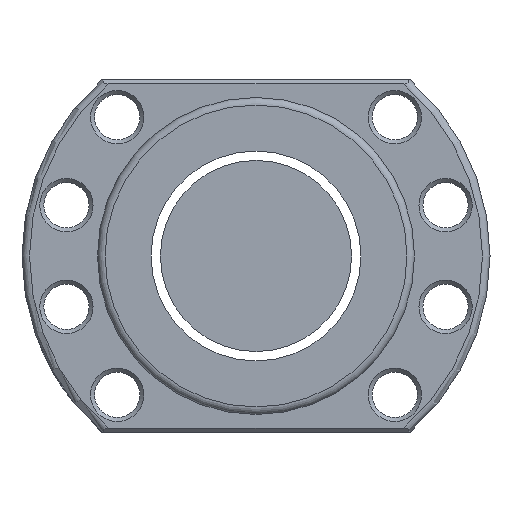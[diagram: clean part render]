
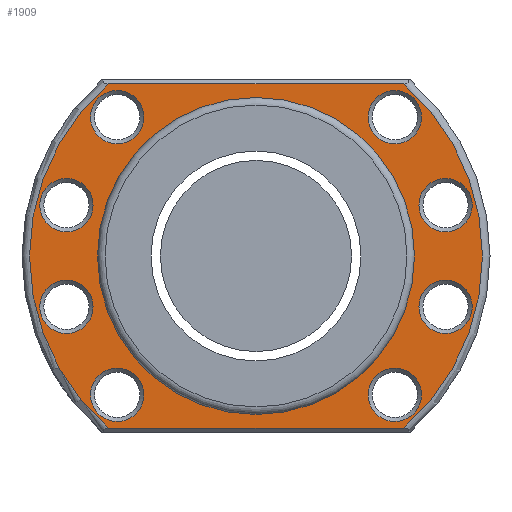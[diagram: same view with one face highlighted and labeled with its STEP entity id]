
A CAD part, left-side view. The second image highlights one B-rep face of the part: STEP entity #1909.
In plain terms, the highlighted planar face has unit normal (-1, 0, 0).
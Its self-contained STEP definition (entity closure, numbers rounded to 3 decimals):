
#19 = CIRCLE ( 'NONE', #585, 45. ) ;
#27 = DIRECTION ( 'NONE',  ( 1., 0., 0. ) ) ;
#34 = CIRCLE ( 'NONE', #1695, 31.5 ) ;
#40 = CIRCLE ( 'NONE', #1451, 5.3 ) ;
#46 = FACE_BOUND ( 'NONE', #2965, .T. ) ;
#75 = DIRECTION ( 'NONE',  ( -1., 0., 0. ) ) ;
#91 = AXIS2_PLACEMENT_3D ( 'NONE', #611, #2176, #2206 ) ;
#111 = DIRECTION ( 'NONE',  ( 0., -1., 0. ) ) ;
#244 = CARTESIAN_POINT ( 'NONE',  ( -127., -37.671, 15.394 ) ) ;
#264 = CARTESIAN_POINT ( 'NONE',  ( -127., 27.577, -22.277 ) ) ;
#274 = LINE ( 'NONE', #876, #2053 ) ;
#311 = FACE_BOUND ( 'NONE', #1979, .T. ) ;
#314 = ORIENTED_EDGE ( 'NONE', *, *, #2988, .T. ) ;
#325 = FACE_BOUND ( 'NONE', #806, .T. ) ;
#341 = FACE_OUTER_BOUND ( 'NONE', #2772, .T. ) ;
#355 = DIRECTION ( 'NONE',  ( -1., 0., 0. ) ) ;
#356 = FACE_BOUND ( 'NONE', #2677, .T. ) ;
#374 = CIRCLE ( 'NONE', #2875, 5.3 ) ;
#375 = AXIS2_PLACEMENT_3D ( 'NONE', #1952, #2229, #2216 ) ;
#380 = ORIENTED_EDGE ( 'NONE', *, *, #1906, .T. ) ;
#382 = CARTESIAN_POINT ( 'NONE',  ( -127., -27.577, -22.277 ) ) ;
#387 = CARTESIAN_POINT ( 'NONE',  ( -127., 0., 0. ) ) ;
#403 = DIRECTION ( 'NONE',  ( -1., 0., 0. ) ) ;
#415 = EDGE_LOOP ( 'NONE', ( #1395 ) ) ;
#434 = ORIENTED_EDGE ( 'NONE', *, *, #669, .T. ) ;
#460 = CARTESIAN_POINT ( 'NONE',  ( -127., 27.577, 32.877 ) ) ;
#487 = CIRCLE ( 'NONE', #2153, 45. ) ;
#506 = CARTESIAN_POINT ( 'NONE',  ( -127., 29.247, -34.2 ) ) ;
#511 = DIRECTION ( 'NONE',  ( 1., 0., 0. ) ) ;
#529 = VERTEX_POINT ( 'NONE', #1046 ) ;
#538 = DIRECTION ( 'NONE',  ( 1., 0., 0. ) ) ;
#555 = AXIS2_PLACEMENT_3D ( 'NONE', #3222, #1115, #596 ) ;
#557 = CIRCLE ( 'NONE', #1990, 5.3 ) ;
#585 = AXIS2_PLACEMENT_3D ( 'NONE', #1943, #355, #3045 ) ;
#596 = DIRECTION ( 'NONE',  ( 0., 0., 1. ) ) ;
#611 = CARTESIAN_POINT ( 'NONE',  ( -127., 37.671, 10.094 ) ) ;
#669 = EDGE_CURVE ( 'NONE', #1701, #1701, #1317, .T. ) ;
#693 = CARTESIAN_POINT ( 'NONE',  ( -127., 27.577, -27.577 ) ) ;
#711 = AXIS2_PLACEMENT_3D ( 'NONE', #1422, #75, #1163 ) ;
#769 = CIRCLE ( 'NONE', #555, 5.3 ) ;
#806 = EDGE_LOOP ( 'NONE', ( #380 ) ) ;
#820 = EDGE_CURVE ( 'NONE', #2860, #2557, #19, .T. ) ;
#859 = CARTESIAN_POINT ( 'NONE',  ( -127., -37.671, -10.094 ) ) ;
#876 = CARTESIAN_POINT ( 'NONE',  ( -127., 46.5, 34.2 ) ) ;
#903 = VERTEX_POINT ( 'NONE', #506 ) ;
#987 = ORIENTED_EDGE ( 'NONE', *, *, #2973, .T. ) ;
#1007 = CARTESIAN_POINT ( 'NONE',  ( -127., 29.247, 34.2 ) ) ;
#1014 = CARTESIAN_POINT ( 'NONE',  ( -127., 0., -31.5 ) ) ;
#1046 = CARTESIAN_POINT ( 'NONE',  ( -127., 37.671, 15.394 ) ) ;
#1065 = CARTESIAN_POINT ( 'NONE',  ( -127., -37.671, -4.794 ) ) ;
#1115 = DIRECTION ( 'NONE',  ( 1., 0., 0. ) ) ;
#1132 = FACE_BOUND ( 'NONE', #1445, .T. ) ;
#1148 = PLANE ( 'NONE',  #711 ) ;
#1163 = DIRECTION ( 'NONE',  ( 0., 0., 1. ) ) ;
#1189 = CARTESIAN_POINT ( 'NONE',  ( -127., -29.247, -34.2 ) ) ;
#1215 = ORIENTED_EDGE ( 'NONE', *, *, #2471, .T. ) ;
#1236 = ORIENTED_EDGE ( 'NONE', *, *, #2764, .T. ) ;
#1273 = ORIENTED_EDGE ( 'NONE', *, *, #1860, .T. ) ;
#1291 = CIRCLE ( 'NONE', #375, 5.3 ) ;
#1317 = CIRCLE ( 'NONE', #2626, 5.3 ) ;
#1340 = EDGE_LOOP ( 'NONE', ( #434 ) ) ;
#1393 = FACE_BOUND ( 'NONE', #2209, .T. ) ;
#1395 = ORIENTED_EDGE ( 'NONE', *, *, #1923, .T. ) ;
#1422 = CARTESIAN_POINT ( 'NONE',  ( -127., 46.5, 0. ) ) ;
#1445 = EDGE_LOOP ( 'NONE', ( #987 ) ) ;
#1451 = AXIS2_PLACEMENT_3D ( 'NONE', #693, #3043, #2497 ) ;
#1455 = FACE_BOUND ( 'NONE', #2508, .T. ) ;
#1478 = DIRECTION ( 'NONE',  ( 0., 0., 1. ) ) ;
#1572 = CARTESIAN_POINT ( 'NONE',  ( -127., -27.577, 27.577 ) ) ;
#1597 = DIRECTION ( 'NONE',  ( 0., 0., 1. ) ) ;
#1695 = AXIS2_PLACEMENT_3D ( 'NONE', #387, #3076, #2778 ) ;
#1701 = VERTEX_POINT ( 'NONE', #382 ) ;
#1745 = CARTESIAN_POINT ( 'NONE',  ( -127., 0., 0. ) ) ;
#1813 = CARTESIAN_POINT ( 'NONE',  ( -127., -27.577, -27.577 ) ) ;
#1860 = EDGE_CURVE ( 'NONE', #3160, #3160, #3373, .T. ) ;
#1901 = FACE_BOUND ( 'NONE', #1340, .T. ) ;
#1906 = EDGE_CURVE ( 'NONE', #529, #529, #2159, .T. ) ;
#1909 = ADVANCED_FACE ( 'NONE', ( #1901, #356, #2994, #46, #1455, #325, #311, #1393, #1132, #341 ), #1148, .T. ) ;
#1920 = ORIENTED_EDGE ( 'NONE', *, *, #820, .T. ) ;
#1923 = EDGE_CURVE ( 'NONE', #3435, #3435, #769, .T. ) ;
#1924 = DIRECTION ( 'NONE',  ( 1., 0., 0. ) ) ;
#1936 = ORIENTED_EDGE ( 'NONE', *, *, #2685, .T. ) ;
#1939 = DIRECTION ( 'NONE',  ( 0., 1., 0. ) ) ;
#1943 = CARTESIAN_POINT ( 'NONE',  ( -127., 0., 0. ) ) ;
#1952 = CARTESIAN_POINT ( 'NONE',  ( -127., 27.577, 27.577 ) ) ;
#1979 = EDGE_LOOP ( 'NONE', ( #2019 ) ) ;
#1982 = VERTEX_POINT ( 'NONE', #1007 ) ;
#1990 = AXIS2_PLACEMENT_3D ( 'NONE', #2135, #538, #1597 ) ;
#2019 = ORIENTED_EDGE ( 'NONE', *, *, #2493, .T. ) ;
#2053 = VECTOR ( 'NONE', #1939, 1000. ) ;
#2064 = VERTEX_POINT ( 'NONE', #3388 ) ;
#2080 = VERTEX_POINT ( 'NONE', #264 ) ;
#2135 = CARTESIAN_POINT ( 'NONE',  ( -127., 37.671, -10.094 ) ) ;
#2153 = AXIS2_PLACEMENT_3D ( 'NONE', #1745, #403, #1478 ) ;
#2159 = CIRCLE ( 'NONE', #91, 5.3 ) ;
#2176 = DIRECTION ( 'NONE',  ( 1., 0., 0. ) ) ;
#2206 = DIRECTION ( 'NONE',  ( 0., 0., 1. ) ) ;
#2209 = EDGE_LOOP ( 'NONE', ( #1936 ) ) ;
#2216 = DIRECTION ( 'NONE',  ( 0., 0., 1. ) ) ;
#2229 = DIRECTION ( 'NONE',  ( 1., 0., 0. ) ) ;
#2310 = LINE ( 'NONE', #3362, #2657 ) ;
#2371 = ORIENTED_EDGE ( 'NONE', *, *, #2874, .T. ) ;
#2391 = VERTEX_POINT ( 'NONE', #460 ) ;
#2396 = EDGE_CURVE ( 'NONE', #3420, #3420, #374, .T. ) ;
#2471 = EDGE_CURVE ( 'NONE', #2557, #1982, #274, .T. ) ;
#2493 = EDGE_CURVE ( 'NONE', #2064, #2064, #557, .T. ) ;
#2497 = DIRECTION ( 'NONE',  ( 0., 0., 1. ) ) ;
#2508 = EDGE_LOOP ( 'NONE', ( #2371 ) ) ;
#2557 = VERTEX_POINT ( 'NONE', #3199 ) ;
#2625 = DIRECTION ( 'NONE',  ( 0., 0., 1. ) ) ;
#2626 = AXIS2_PLACEMENT_3D ( 'NONE', #1813, #27, #3434 ) ;
#2657 = VECTOR ( 'NONE', #111, 1000. ) ;
#2677 = EDGE_LOOP ( 'NONE', ( #3258 ) ) ;
#2685 = EDGE_CURVE ( 'NONE', #2080, #2080, #40, .T. ) ;
#2764 = EDGE_CURVE ( 'NONE', #903, #2860, #2310, .T. ) ;
#2772 = EDGE_LOOP ( 'NONE', ( #314, #1236, #1920, #1215 ) ) ;
#2778 = DIRECTION ( 'NONE',  ( 0., 0., -1. ) ) ;
#2860 = VERTEX_POINT ( 'NONE', #1189 ) ;
#2865 = VERTEX_POINT ( 'NONE', #1014 ) ;
#2874 = EDGE_CURVE ( 'NONE', #2391, #2391, #1291, .T. ) ;
#2875 = AXIS2_PLACEMENT_3D ( 'NONE', #859, #1924, #2956 ) ;
#2956 = DIRECTION ( 'NONE',  ( 0., 0., 1. ) ) ;
#2965 = EDGE_LOOP ( 'NONE', ( #1273 ) ) ;
#2973 = EDGE_CURVE ( 'NONE', #2865, #2865, #34, .T. ) ;
#2988 = EDGE_CURVE ( 'NONE', #1982, #903, #487, .T. ) ;
#2994 = FACE_BOUND ( 'NONE', #415, .T. ) ;
#3043 = DIRECTION ( 'NONE',  ( 1., 0., 0. ) ) ;
#3045 = DIRECTION ( 'NONE',  ( 0., 0., 1. ) ) ;
#3076 = DIRECTION ( 'NONE',  ( 1., 0., 0. ) ) ;
#3160 = VERTEX_POINT ( 'NONE', #3405 ) ;
#3199 = CARTESIAN_POINT ( 'NONE',  ( -127., -29.247, 34.2 ) ) ;
#3222 = CARTESIAN_POINT ( 'NONE',  ( -127., -37.671, 10.094 ) ) ;
#3251 = AXIS2_PLACEMENT_3D ( 'NONE', #1572, #511, #2625 ) ;
#3258 = ORIENTED_EDGE ( 'NONE', *, *, #2396, .T. ) ;
#3362 = CARTESIAN_POINT ( 'NONE',  ( -127., 46.5, -34.2 ) ) ;
#3373 = CIRCLE ( 'NONE', #3251, 5.3 ) ;
#3388 = CARTESIAN_POINT ( 'NONE',  ( -127., 37.671, -4.794 ) ) ;
#3405 = CARTESIAN_POINT ( 'NONE',  ( -127., -27.577, 32.877 ) ) ;
#3420 = VERTEX_POINT ( 'NONE', #1065 ) ;
#3434 = DIRECTION ( 'NONE',  ( 0., 0., 1. ) ) ;
#3435 = VERTEX_POINT ( 'NONE', #244 ) ;
